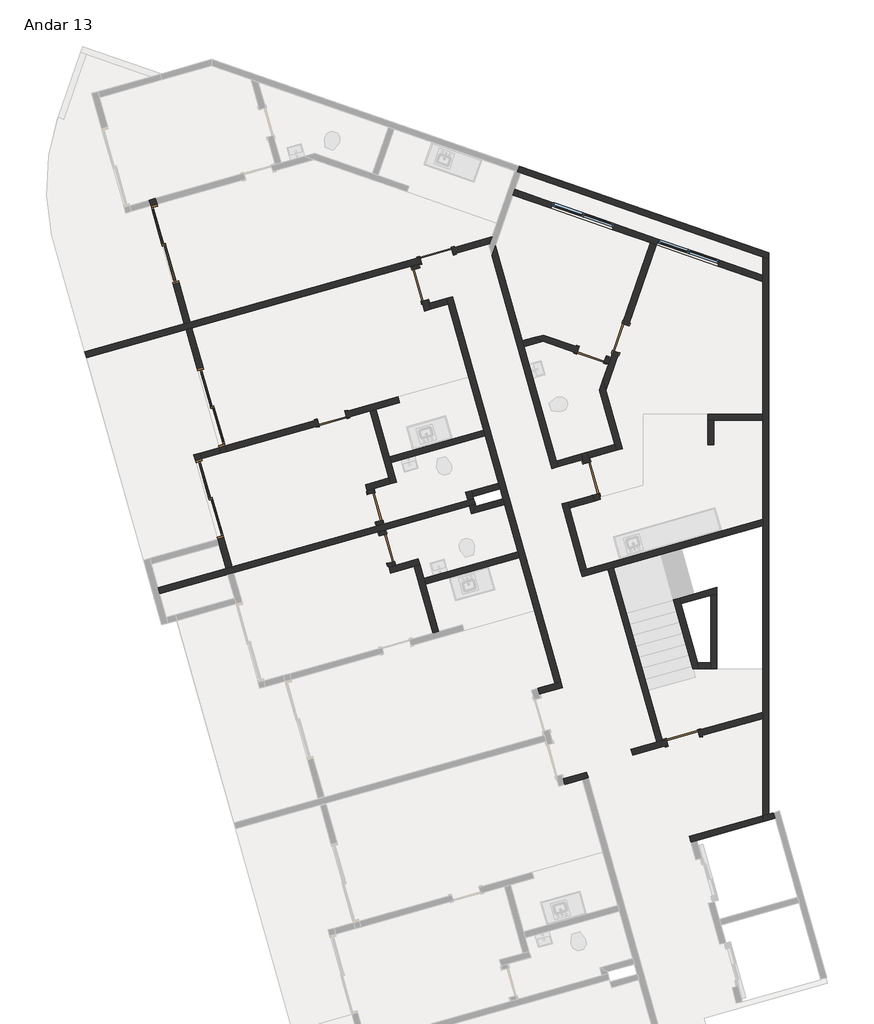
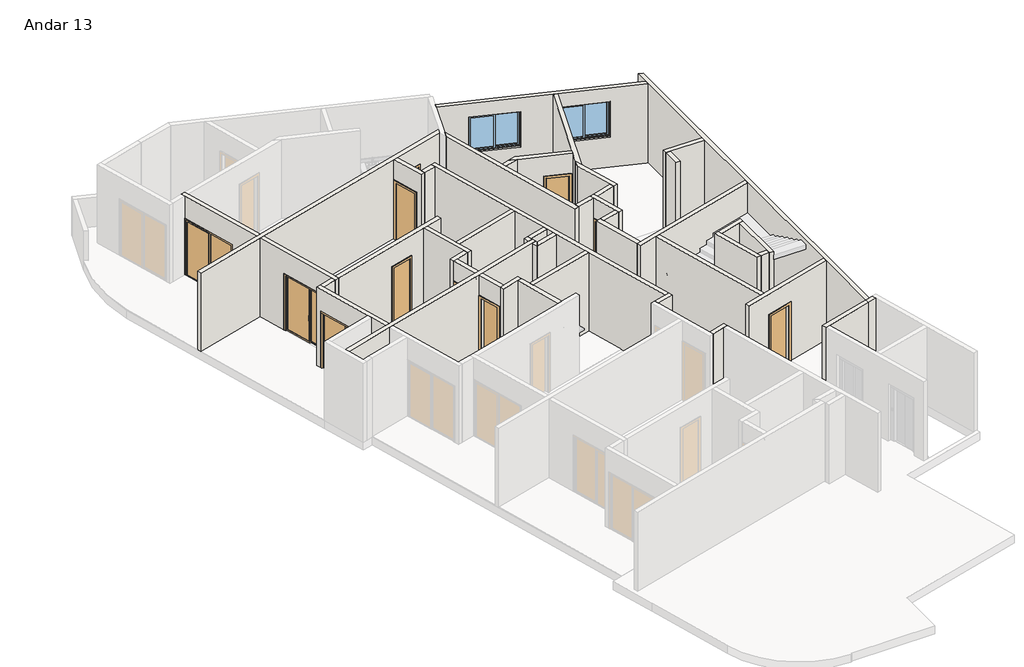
# One storey, part 2 of 3: 48 walls, 12 doors, 2 windows.
"""IFC4 building model written with IfcOpenShell, lengths in millimetres."""

from ifc_helpers import new_model, si_unit, frame, origin, place, context, project, spatial, polyline, outline, extrude, faceted_brep, transform, mapped, element, save
from components import p2_80cm_9d4be4ef, p2_80cm_083652d6, p3_70cm_ef4d15e3, p3_70cm_0a698c7c, p4_correr_200cm_eaaa0877, jx_160cm_e9e36a0c

model = new_model("IFC4")

# Units and contexts
model_context = context("Model", 3, world=origin())
ifc_project = project(units=[si_unit("LENGTHUNIT", "METRE", prefix="MILLI")], contexts=[model_context])

# Site, building, storey
site = spatial("IfcSite", under=ifc_project)
building = spatial("IfcBuilding", under=site)
storey = spatial("IfcBuildingStorey", under=building, Name="Andar 13", Elevation=88450.0)

# Doors
placement = place(None, origin())
p2_80cm_shape = p2_80cm_9d4be4ef(model_context)
element("IfcDoor", 1, ObjectType="M_Folha única1 : P2 - 80CM", at=placement, inside=storey, context=model_context, shape_type="MappedRepresentation", body=[
    mapped(p2_80cm_shape, transform((-83145.1128896, 30941.0402894, 88450.0), x_axis=(-0.9623628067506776, -0.2717679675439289, 0.0), y_axis=(0.2717679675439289, -0.9623628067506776, 0.0), z_axis=(0.0, 0.0, 1.0))),
])
element("IfcDoor", 2, ObjectType="M_Folha única1 : P2 - 80CM", at=placement, inside=storey, context=model_context, shape_type="MappedRepresentation", body=[
    mapped(p2_80cm_shape, transform((-79349.4097406, 25479.1041247, 88450.0), x_axis=(-0.27176796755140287, 0.962362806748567, 0.0), y_axis=(-0.962362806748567, -0.27176796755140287, 0.0), z_axis=(0.0, 0.0, 1.0))),
])
p2_80cm_2_shape = p2_80cm_083652d6(model_context)
element("IfcDoor", 3, ObjectType="M_Folha única1 : P2 - 80CM", at=placement, inside=storey, context=model_context, shape_type="MappedRepresentation", body=[
    mapped(p2_80cm_2_shape, transform((-83542.2049222, 30231.4150941, 88450.0), x_axis=(-0.2717679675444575, 0.9623628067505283, 0.0), y_axis=(-0.9623628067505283, -0.2717679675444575, 0.0), z_axis=(0.0, 0.0, 1.0))),
])
p3_70cm_shape = p3_70cm_ef4d15e3(model_context)
element("IfcDoor", 4, ObjectType="M_Folha única1 : P3 - 70CM", at=placement, inside=storey, context=model_context, shape_type="MappedRepresentation", body=[
    mapped(p3_70cm_shape, transform((-84650.97864, 24774.7108835, 88450.0), x_axis=(0.2717679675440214, -0.9623628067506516, 0.0), y_axis=(0.9623628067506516, 0.2717679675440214, 0.0), z_axis=(0.0, 0.0, 1.0))),
])
p3_70cm_2_shape = p3_70cm_0a698c7c(model_context)
element("IfcDoor", 5, ObjectType="M_Folha única1 : P3 - 70CM", at=placement, inside=storey, context=model_context, shape_type="MappedRepresentation", body=[
    mapped(p3_70cm_2_shape, transform((-84365.6222741, 23764.2299364, 88450.0), x_axis=(-0.2717679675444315, 0.9623628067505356, 0.0), y_axis=(-0.9623628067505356, -0.2717679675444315, 0.0), z_axis=(0.0, 0.0, 1.0))),
])
element("IfcDoor", 6, ObjectType="M_Folha única1 : P3 - 70CM", at=placement, inside=storey, context=model_context, shape_type="MappedRepresentation", body=[
    mapped(p3_70cm_2_shape, transform((-85705.4317558, 26944.8211633, 88450.0), x_axis=(0.9623628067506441, 0.2717679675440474, 0.0), y_axis=(-0.2717679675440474, 0.9623628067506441, 0.0), z_axis=(0.0, 0.0, 1.0))),
])
element("IfcDoor", 7, ObjectType="M_Folha única1 : P3 - 70CM", at=placement, inside=storey, context=model_context, shape_type="MappedRepresentation", body=[
    mapped(p3_70cm_2_shape, transform((-79346.1223746, 28509.6973665, 88450.0), x_axis=(0.9449109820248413, -0.32732741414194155, 0.0), y_axis=(0.32732741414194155, 0.9449109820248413, 0.0), z_axis=(0.0, 0.0, 1.0))),
])
element("IfcDoor", 8, ObjectType="M_Folha única1 : P3 - 70CM", at=placement, inside=storey, context=model_context, shape_type="MappedRepresentation", body=[
    mapped(p3_70cm_2_shape, transform((-78626.5662556, 28921.8732895, 88450.0), x_axis=(-0.32732741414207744, -0.9449109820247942, 0.0), y_axis=(0.9449109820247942, -0.32732741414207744, 0.0), z_axis=(0.0, 0.0, 1.0))),
])
p4_correr_200cm_shape = p4_correr_200cm_eaaa0877(model_context)
element("IfcDoor", 9, ObjectType="Porta de correr dupla envidraçada sem revestimento : P4 - CORRER - 200CM", at=placement, inside=storey, context=model_context, shape_type="MappedRepresentation", body=[
    mapped(p4_correr_200cm_shape, transform((-89799.7974026, 31217.9316171, 88450.0), x_axis=(0.27176796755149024, -0.9623628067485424, 0.0), y_axis=(0.9623628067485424, 0.27176796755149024, 0.0), z_axis=(0.0, 0.0, 1.0))),
])
element("IfcDoor", 10, ObjectType="Porta de correr dupla envidraçada sem revestimento : P4 - CORRER - 200CM", at=placement, inside=storey, context=model_context, shape_type="MappedRepresentation", body=[
    mapped(p4_correr_200cm_shape, transform((-88671.9603372, 27224.125969, 88450.0), x_axis=(-0.27176796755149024, 0.9623628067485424, 0.0), y_axis=(-0.9623628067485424, -0.27176796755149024, 0.0), z_axis=(0.0, 0.0, 1.0))),
])
element("IfcDoor", 11, ObjectType="Porta de correr dupla envidraçada sem revestimento : P4 - CORRER - 200CM", at=placement, inside=storey, context=model_context, shape_type="MappedRepresentation", body=[
    mapped(p4_correr_200cm_shape, transform((-88709.3738038, 24979.4758572, 88450.0), x_axis=(-0.2717679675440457, 0.9623628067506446, 0.0), y_axis=(-0.9623628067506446, -0.2717679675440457, 0.0), z_axis=(0.0, 0.0, 1.0))),
])
element("IfcDoor", 12, ObjectType="M_Folha única1 : PCF1 - 80CM", at=placement, inside=storey, context=model_context, shape_type="MappedRepresentation", body=[
    mapped(p2_80cm_shape, transform((-77103.5502958, 19127.1105693, 88450.0), x_axis=(-0.9623628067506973, -0.2717679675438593, 0.0), y_axis=(0.2717679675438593, -0.9623628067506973, 0.0), z_axis=(0.0, 0.0, 1.0))),
])

# Walls
element("IfcWall", 13, ObjectType="Básica .15 -  Interna", at=placement, inside=storey, context=model_context, shape_type="Brep", body=[
    faceted_brep([(-82901.0804648, 29892.9118737, 88450.0), (-82860.3152697, 29748.5574527, 88450.0), (-81990.6577736, 26668.9964711, 88450.0), (-81949.8925784, 26524.6420501, 88450.0), (-81623.7710174, 25369.806682, 88450.0), (-81583.0058223, 25225.452261, 88450.0), (-81515.0638304, 24984.8615593, 88450.0), (-81474.2986352, 24840.5071383, 88450.0), (-81148.1770742, 23685.6717702, 88450.0), (-81107.4118791, 23541.3173492, 88450.0), (-80237.7543829, 20461.7563676, 88450.0), (-80237.7543829, 20461.7563676, 91350.0), (-81107.4118791, 23541.3173492, 91350.0), (-81148.1770742, 23685.6717702, 91350.0), (-81474.2986352, 24840.5071383, 91350.0), (-81515.0638304, 24984.8615593, 91350.0), (-81583.0058223, 25225.452261, 91350.0), (-81623.7710174, 25369.806682, 91350.0), (-81949.8925784, 26524.6420501, 91350.0), (-81990.6577736, 26668.9964711, 91350.0), (-82860.3152697, 29748.5574527, 91350.0), (-82901.0804648, 29892.9118737, 91350.0), (-82756.7260438, 29933.6770689, 88450.0), (-82756.7260438, 29933.6770689, 91350.0), (-80093.3999619, 20502.5215627, 91350.0), (-80093.3999619, 20502.5215627, 88450.0)], [[[0, 1, 2, 3, 4, 5, 6, 7, 8, 9, 10, 11, 12, 13, 14, 15, 16, 17, 18, 19, 20, 21]], [[22, 23, 24, 25]], [[10, 9, 8, 7, 6, 5, 4, 3, 2, 1, 0, 22, 25]], [[21, 20, 19, 18, 17, 16, 15, 14, 13, 12, 11, 24, 23]], [[0, 21, 23, 22]], [[11, 10, 25, 24]]]),
])
element("IfcWall", 14, ObjectType="Básica .15 -  Interna", at=placement, inside=storey, context=model_context, shape_type="Brep", body=[
    faceted_brep([(-83750.2661164, 30692.2138999, 88450.0), (-83723.0893197, 30595.9776193, 88450.0), (-83723.0893197, 30595.9776193, 90550.0), (-83505.6749457, 29826.0873739, 90550.0), (-83505.6749457, 29826.0873739, 88450.0), (-83437.7329538, 29585.4966722, 88450.0), (-83437.7329538, 29585.4966722, 91350.0), (-83750.2661164, 30692.2138999, 91350.0), (-83578.7348987, 30636.7428144, 90550.0), (-83578.7348987, 30636.7428144, 88450.0), (-83605.9116954, 30732.9790951, 88450.0), (-83605.9116954, 30732.9790951, 91350.0), (-83334.1437279, 29770.6162883, 91350.0), (-83293.3785328, 29626.2618673, 91350.0), (-83293.3785328, 29626.2618673, 88450.0), (-83334.1437279, 29770.6162883, 88450.0), (-83361.3205246, 29866.852569, 88450.0), (-83361.3205246, 29866.852569, 90550.0)], [[[0, 1, 2, 3, 4, 5, 6, 7]], [[8, 9, 10, 11, 12, 13, 14, 15, 16, 17]], [[10, 9, 1, 0]], [[16, 15, 14, 5, 4]], [[7, 6, 13, 12, 11]], [[6, 5, 14, 13]], [[0, 7, 11, 10]], [[2, 1, 9, 8]], [[3, 2, 8, 17]], [[4, 3, 17, 16]]]),
])
element("IfcWall", 15, ObjectType="Básica .15 -  Interna", at=placement, inside=storey, context=model_context, shape_type="SweptSolid", body=[
    extrude(outline(polyline([(-82860.3152697, 29748.5574527), (-83293.3785328, 29626.2618673), (-83334.1437279, 29770.6162883), (-82901.0804648, 29892.9118737), (-82860.3152697, 29748.5574527)])), frame((0.0, 0.0, 88450.0), z_axis=(0.0, 0.0, 1.0), x_axis=(1.0, 0.0, 0.0)), (0.0, 0.0, 1.0), 2900.0),
])
element("IfcWall", 16, ObjectType="Básica .15 -  Interna", at=placement, inside=storey, context=model_context, shape_type="Brep", body=[
    faceted_brep([(-80093.3999619, 20502.5215627, 88450.0), (-80237.7543829, 20461.7563676, 88450.0), (-80670.817646, 20339.4607822, 88450.0), (-80670.817646, 20339.4607822, 91350.0), (-80237.7543829, 20461.7563676, 91350.0), (-80093.3999619, 20502.5215627, 91350.0), (-80052.6347668, 20358.1671417, 88450.0), (-80052.6347668, 20358.1671417, 91350.0), (-80630.0524508, 20195.1063612, 91350.0), (-80630.0524508, 20195.1063612, 88450.0)], [[[0, 1, 2, 3, 4, 5]], [[6, 7, 8, 9]], [[2, 1, 0, 6, 9]], [[5, 4, 3, 8, 7]], [[3, 2, 9, 8]], [[0, 5, 7, 6]]]),
])
element("IfcWall", 17, ObjectType="Básica .15 -  Interna", at=placement, inside=storey, context=model_context, shape_type="Brep", body=[
    faceted_brep([(-80004.9861255, 17981.6719056, 88450.0), (-79571.9228624, 18103.967491, 88450.0), (-79427.5684414, 18144.7326862, 88450.0), (-79427.5684414, 18144.7326862, 91350.0), (-79571.9228624, 18103.967491, 91350.0), (-80004.9861255, 17981.6719056, 91350.0), (-80045.7513206, 18126.0263266, 88450.0), (-80045.7513206, 18126.0263266, 91350.0), (-79468.3336366, 18289.0871072, 91350.0), (-79468.3336366, 18289.0871072, 88450.0)], [[[0, 1, 2, 3, 4, 5]], [[6, 7, 8, 9]], [[2, 1, 0, 6, 9]], [[5, 4, 3, 8, 7]], [[3, 2, 9, 8]], [[0, 5, 7, 6]]]),
])
element("IfcWall", 18, ObjectType="Básica .15 -  Interna", at=placement, inside=storey, context=model_context, shape_type="Brep", body=[
    faceted_brep([(-88305.9570711, 23274.9583478, 91350.0), (-88469.0178517, 23852.3760319, 91350.0), (-88509.7830468, 23996.7304529, 91350.0), (-89094.084177, 26065.8104874, 91350.0), (-89094.084177, 26065.8104874, 88450.0), (-89053.3189819, 25921.4560664, 88450.0), (-89053.3189819, 25921.4560664, 90550.0), (-88509.7830468, 23996.7304529, 90550.0), (-88509.7830468, 23996.7304529, 88450.0), (-88469.0178517, 23852.3760319, 88450.0), (-88305.9570711, 23274.9583478, 88450.0), (-88949.729756, 26106.5756825, 91350.0), (-88908.9645609, 25962.2212615, 91350.0), (-88161.6026501, 23315.723543, 91350.0), (-88161.6026501, 23315.723543, 88450.0), (-88365.4286258, 24037.495648, 88450.0), (-88365.4286258, 24037.495648, 90550.0), (-88908.9645609, 25962.2212615, 90550.0), (-88908.9645609, 25962.2212615, 88450.0), (-88949.729756, 26106.5756825, 88450.0)], [[[0, 1, 2, 3, 4, 5, 6, 7, 8, 9, 10]], [[11, 12, 13, 14, 15, 16, 17, 18, 19]], [[4, 19, 18, 5]], [[14, 10, 9, 8, 15]], [[3, 2, 1, 0, 13, 12, 11]], [[4, 3, 11, 19]], [[0, 10, 14, 13]], [[17, 6, 5, 18]], [[6, 17, 16, 7]], [[7, 16, 15, 8]]]),
])
element("IfcWall", 19, ObjectType="Básica .15 -  Interna", at=placement, inside=storey, context=model_context, shape_type="Brep", body=[
    faceted_brep([(-89143.3190618, 29169.2341801, 91350.0), (-88328.0151592, 26282.1457598, 91350.0), (-88287.249964, 26137.7913388, 91350.0), (-88287.249964, 26137.7913388, 88450.0), (-88328.0151592, 26282.1457598, 88450.0), (-88328.0151592, 26282.1457598, 90550.0), (-88871.5510943, 28206.8713733, 90550.0), (-88871.5510943, 28206.8713733, 88450.0), (-89143.3190618, 29169.2341801, 88450.0), (-88431.604385, 26097.0261437, 91350.0), (-88472.3695802, 26241.3805647, 91350.0), (-89287.6734828, 29128.468985, 91350.0), (-89287.6734828, 29128.468985, 88450.0), (-89015.9055153, 28166.1061782, 88450.0), (-89015.9055153, 28166.1061782, 90550.0), (-88472.3695802, 26241.3805647, 90550.0), (-88472.3695802, 26241.3805647, 88450.0), (-88431.604385, 26097.0261437, 88450.0)], [[[0, 1, 2, 3, 4, 5, 6, 7, 8]], [[9, 10, 11, 12, 13, 14, 15, 16, 17]], [[3, 17, 16, 4]], [[12, 8, 7, 13]], [[2, 1, 0, 11, 10, 9]], [[3, 2, 9, 17]], [[0, 8, 12, 11]], [[6, 14, 13, 7]], [[14, 6, 5, 15]], [[15, 5, 4, 16]]]),
])
element("IfcWall", 20, ObjectType="Básica .15 -  Interna", at=placement, inside=storey, context=model_context, shape_type="Brep", body=[
    faceted_brep([(-76904.7538909, 16570.3643175, 88450.0), (-76760.3994699, 16611.1295126, 88450.0), (-75147.8282189, 17066.5141226, 88450.0), (-75147.8282189, 17066.5141226, 91350.0), (-76760.3994699, 16611.1295126, 91350.0), (-76904.7538909, 16570.3643175, 91350.0), (-76945.5190861, 16714.7187385, 88450.0), (-76945.5190861, 16714.7187385, 91350.0), (-75147.8282189, 17222.3804954, 91350.0), (-75147.8282189, 17222.3804954, 88450.0)], [[[0, 1, 2, 3, 4, 5]], [[6, 7, 8, 9]], [[2, 1, 0, 6, 9]], [[5, 4, 3, 8, 7]], [[0, 5, 7, 6]], [[3, 2, 9, 8]]]),
])
element("IfcWall", 21, ObjectType="Básica .15 -  Interna", at=placement, inside=storey, context=model_context, shape_type="Brep", body=[
    faceted_brep([(-79570.9048554, 23078.5590693, 88450.0), (-78948.2127609, 23254.4051886, 88450.0), (-78803.8582924, 23295.1703972, 88450.0), (-75147.8282189, 24327.6207947, 88450.0), (-75147.8282189, 24327.6207947, 91350.0), (-78803.8582924, 23295.1703972, 91350.0), (-78948.2127609, 23254.4051886, 91350.0), (-79570.9048554, 23078.5590693, 91350.0), (-79611.6700506, 23222.9134903, 88450.0), (-79611.6700506, 23222.9134903, 91350.0), (-79467.3156296, 23263.6786855, 91350.0), (-75147.8282189, 24483.4871675, 91350.0), (-75147.8282189, 24483.4871675, 88450.0), (-79467.3156296, 23263.6786855, 88450.0)], [[[0, 1, 2, 3, 4, 5, 6, 7]], [[8, 9, 10, 11, 12, 13]], [[3, 2, 1, 0, 8, 13, 12]], [[7, 6, 5, 4, 11, 10, 9]], [[0, 7, 9, 8]], [[4, 3, 12, 11]]]),
])
element("IfcWall", 22, ObjectType="Básica .15 -  Interna", at=placement, inside=storey, context=model_context, shape_type="SweptSolid", body=[
    extrude(outline(polyline([(-77749.4687652, 19022.6385875), (-78948.2127609, 23254.4051886), (-78803.8582924, 23295.1703972), (-77605.1142967, 19063.4037961), (-77749.4687652, 19022.6385875)])), frame((0.0, 0.0, 88450.0), z_axis=(0.0, 0.0, 1.0), x_axis=(1.0, 0.0, 0.0)), (0.0, 0.0, 1.0), 2900.0),
])
element("IfcWall", 23, ObjectType="Básica .15 -  Interna", at=placement, inside=storey, context=model_context, shape_type="Brep", body=[
    faceted_brep([(-77508.878016, 19090.5805928, 90550.0), (-77508.878016, 19090.5805928, 88450.0), (-77605.1142967, 19063.4037961, 88450.0), (-77749.4687652, 19022.6385875, 88450.0), (-78375.5945972, 18845.8227925, 88450.0), (-78375.5945972, 18845.8227925, 91350.0), (-77749.4687652, 19022.6385875, 91350.0), (-77605.1142967, 19063.4037961, 91350.0), (-75147.8282189, 19757.3329862, 91350.0), (-75147.8282189, 19757.3329862, 88450.0), (-76738.9877706, 19307.9949669, 88450.0), (-76738.9877706, 19307.9949669, 90550.0), (-78334.829402, 18701.4683715, 88450.0), (-77468.1128209, 18946.2261718, 88450.0), (-77468.1128209, 18946.2261718, 90550.0), (-76698.2225755, 19163.6405459, 90550.0), (-76698.2225755, 19163.6405459, 88450.0), (-75147.8282189, 19601.4666134, 88450.0), (-75147.8282189, 19601.4666134, 91350.0), (-78334.829402, 18701.4683715, 91350.0)], [[[0, 1, 2, 3, 4, 5, 6, 7, 8, 9, 10, 11]], [[12, 13, 14, 15, 16, 17, 18, 19]], [[10, 9, 17, 16]], [[4, 3, 2, 1, 13, 12]], [[5, 4, 12, 19]], [[8, 7, 6, 5, 19, 18]], [[14, 13, 1, 0]], [[15, 14, 0, 11]], [[16, 15, 11, 10]], [[9, 8, 18, 17]]]),
])
element("IfcWall", 24, ObjectType="Básica .15 - Externa", at=placement, inside=storey, context=model_context, shape_type="Brep", body=[
    faceted_brep([(-75147.8282189, 30909.9128092, 91350.0), (-75147.8282189, 30909.9128092, 88450.0), (-75147.8282189, 30461.6117638, 88450.0), (-75147.8282189, 30302.8666514, 88450.0), (-75147.8282189, 27060.8243598, 88450.0), (-75147.8282189, 26910.8243598, 88450.0), (-75147.8282189, 24483.4871675, 88450.0), (-75147.8282189, 24327.6207947, 88450.0), (-75147.8282189, 19757.3329862, 88450.0), (-75147.8282189, 19601.4666134, 88450.0), (-75147.8282189, 17222.3804954, 88450.0), (-75147.8282189, 17222.3804954, 91350.0), (-75147.8282189, 19601.4666134, 91350.0), (-75147.8282189, 19757.3329862, 91350.0), (-75147.8282189, 24327.6207947, 91350.0), (-75147.8282189, 24483.4871675, 91350.0), (-75147.8282189, 26910.8243598, 91350.0), (-75147.8282189, 27060.8243598, 91350.0), (-75147.8282189, 30302.8666514, 91350.0), (-75147.8282189, 30461.6117638, 91350.0), (-74997.8282189, 30857.9511821, 88450.0), (-74997.8282189, 30857.9511821, 89750.0), (-74997.8282189, 30857.9511821, 91050.0), (-74997.8282189, 30857.9511821, 91350.0), (-74997.8282189, 17264.7399828, 91350.0), (-74997.8282189, 17264.7399828, 88450.0)], [[[0, 1, 2, 3, 4, 5, 6, 7, 8, 9, 10, 11, 12, 13, 14, 15, 16, 17, 18, 19]], [[20, 21, 22, 23, 24, 25]], [[10, 9, 8, 7, 6, 5, 4, 3, 2, 1, 20, 25]], [[0, 19, 18, 17, 16, 15, 14, 13, 12, 11, 24, 23]], [[11, 10, 25, 24]], [[0, 23, 22, 21, 20, 1]]]),
])
element("IfcWall", 25, ObjectType="Básica .15 -  Interna", at=placement, inside=storey, context=model_context, shape_type="Brep", body=[
    faceted_brep([(-80073.6755954, 24858.9302618, 88450.0), (-79611.6700506, 23222.9134903, 88450.0), (-79611.6700506, 23222.9134903, 91350.0), (-80073.6755954, 24858.9302618, 91350.0), (-79929.3211744, 24899.695457, 88450.0), (-79929.3211744, 24899.695457, 91350.0), (-79888.5559793, 24755.3410359, 91350.0), (-79467.3156296, 23263.6786855, 91350.0), (-79467.3156296, 23263.6786855, 88450.0), (-79888.5559793, 24755.3410359, 88450.0)], [[[0, 1, 2, 3]], [[4, 5, 6, 7, 8, 9]], [[1, 0, 4, 9, 8]], [[3, 2, 7, 6, 5]], [[0, 3, 5, 4]], [[2, 1, 8, 7]]]),
])
element("IfcWall", 26, ObjectType="Básica .15 -  Interna", at=placement, inside=storey, context=model_context, shape_type="Brep", body=[
    faceted_brep([(-79888.5559793, 24755.3410359, 88450.0), (-79272.1145689, 24929.4219834, 88450.0), (-79272.1145689, 24929.4219834, 91350.0), (-79888.5559793, 24755.3410359, 91350.0), (-79929.3211744, 24899.695457, 88450.0), (-79929.3211744, 24899.695457, 91350.0), (-79312.8797641, 25073.7764044, 91350.0), (-79312.8797641, 25073.7764044, 90550.0), (-79312.8797641, 25073.7764044, 88450.0)], [[[0, 1, 2, 3]], [[4, 5, 6, 7, 8]], [[1, 0, 4, 8]], [[3, 2, 6, 5]], [[0, 3, 5, 4]], [[2, 1, 8, 7, 6]]]),
])
element("IfcWall", 27, ObjectType="Básica .15 -  Interna", at=placement, inside=storey, context=model_context, shape_type="Brep", body=[
    faceted_brep([(-79598.23613, 26084.2573515, 88450.0), (-79557.4709349, 25939.9029305, 88450.0), (-79530.2941381, 25843.6666498, 88450.0), (-79530.2941381, 25843.6666498, 90550.0), (-79312.8797641, 25073.7764044, 90550.0), (-79312.8797641, 25073.7764044, 88450.0), (-79272.1145689, 24929.4219834, 88450.0), (-79272.1145689, 24929.4219834, 91350.0), (-79312.8797641, 25073.7764044, 91350.0), (-79557.4709349, 25939.9029305, 91350.0), (-79598.23613, 26084.2573515, 91350.0), (-79385.9397171, 25884.4318449, 90550.0), (-79385.9397171, 25884.4318449, 88450.0), (-79413.1165138, 25980.6681256, 88450.0), (-79453.881709, 26125.0225466, 88450.0), (-79453.881709, 26125.0225466, 91350.0), (-79413.1165138, 25980.6681256, 91350.0), (-79127.7601479, 24970.1871785, 91350.0), (-79127.7601479, 24970.1871785, 88450.0), (-79168.5253431, 25114.5415995, 88450.0), (-79168.5253431, 25114.5415995, 90550.0)], [[[0, 1, 2, 3, 4, 5, 6, 7, 8, 9, 10]], [[11, 12, 13, 14, 15, 16, 17, 18, 19, 20]], [[19, 18, 6, 5]], [[14, 13, 12, 2, 1, 0]], [[10, 9, 8, 7, 17, 16, 15]], [[7, 6, 18, 17]], [[0, 10, 15, 14]], [[3, 2, 12, 11]], [[4, 3, 11, 20]], [[5, 4, 20, 19]]]),
])
element("IfcWall", 28, ObjectType="Básica .15 -  Interna", at=placement, inside=storey, context=model_context, shape_type="Brep", body=[
    faceted_brep([(-81789.2550074, 30934.0017027, 88450.0), (-80318.2667662, 25725.0567879, 88450.0), (-80318.2667662, 25725.0567879, 91350.0), (-81789.2550074, 30934.0017027, 91350.0), (-81703.3880158, 31181.8778654, 88450.0), (-81703.3880158, 31181.8778654, 91350.0), (-81045.1503443, 28850.9797144, 91350.0), (-81004.3851492, 28706.6252933, 91350.0), (-80214.6775403, 25910.176404, 91350.0), (-80173.9123452, 25765.821983, 91350.0), (-80173.9123452, 25765.821983, 88450.0), (-80214.6775403, 25910.176404, 88450.0), (-81004.3851492, 28706.6252933, 88450.0), (-81045.1503443, 28850.9797144, 88450.0)], [[[0, 1, 2, 3]], [[4, 5, 6, 7, 8, 9, 10, 11, 12, 13]], [[1, 0, 4, 13, 12, 11, 10]], [[3, 2, 9, 8, 7, 6, 5]], [[0, 3, 5, 4]], [[2, 1, 10, 9]]]),
])
element("IfcWall", 29, ObjectType="Básica .15 -  Interna", at=placement, inside=storey, context=model_context, shape_type="Brep", body=[
    faceted_brep([(-88908.9645609, 25962.2212615, 88450.0), (-88431.604385, 26097.0261437, 88450.0), (-88431.604385, 26097.0261437, 91350.0), (-88908.9645609, 25962.2212615, 91350.0), (-88908.9645609, 25962.2212615, 90550.0), (-88949.729756, 26106.5756825, 88450.0), (-88949.729756, 26106.5756825, 91350.0), (-88472.3695802, 26241.3805647, 91350.0), (-88472.3695802, 26241.3805647, 88450.0)], [[[0, 1, 2, 3, 4]], [[5, 6, 7, 8]], [[1, 0, 5, 8]], [[3, 2, 7, 6]], [[0, 4, 3, 6, 5]], [[2, 1, 8, 7]]]),
])
element("IfcWall", 30, ObjectType="Básica .15 -  Interna", at=placement, inside=storey, context=model_context, shape_type="SweptSolid", body=[
    extrude(outline(polyline([(-79557.4709349, 25939.9029305), (-80173.9123452, 25765.821983), (-80214.6775403, 25910.176404), (-79598.23613, 26084.2573515), (-79557.4709349, 25939.9029305)])), frame((0.0, 0.0, 88450.0), z_axis=(0.0, 0.0, 1.0), x_axis=(1.0, 0.0, 0.0)), (0.0, 0.0, 1.0), 2900.0),
])
element("IfcWall", 31, ObjectType="Básica .15 -  Interna", at=placement, inside=storey, context=model_context, shape_type="Brep", body=[
    faceted_brep([(-91725.2428613, 28440.1077234, 88450.0), (-89287.6734828, 29128.468985, 88450.0), (-89143.3190618, 29169.2341801, 88450.0), (-83750.2661164, 30692.2138999, 88450.0), (-83605.9116954, 30732.9790951, 88450.0), (-83509.6754148, 30760.1558918, 88450.0), (-83509.6754148, 30760.1558918, 90550.0), (-82739.7851694, 30977.5702659, 90550.0), (-82739.7851694, 30977.5702659, 88450.0), (-81845.4155775, 31230.1371819, 88450.0), (-81845.4155775, 31230.1371819, 91350.0), (-83605.9116954, 30732.9790951, 91350.0), (-83750.2661164, 30692.2138999, 91350.0), (-89143.3190618, 29169.2341801, 91350.0), (-89287.6734828, 29128.468985, 91350.0), (-91725.2428613, 28440.1077234, 91350.0), (-83550.4406099, 30904.5103128, 90550.0), (-83550.4406099, 30904.5103128, 88450.0), (-89184.084257, 29313.5886011, 88450.0), (-89328.438678, 29272.823406, 88450.0), (-91766.0080564, 28584.4621444, 88450.0), (-91766.0080564, 28584.4621444, 91350.0), (-89328.438678, 29272.823406, 91350.0), (-89184.084257, 29313.5886011, 91350.0), (-81785.5670817, 31402.9045654, 91350.0), (-81785.5670817, 31402.9045654, 88450.0), (-82780.5503645, 31121.9246869, 88450.0), (-82780.5503645, 31121.9246869, 90550.0)], [[[0, 1, 2, 3, 4, 5, 6, 7, 8, 9, 10, 11, 12, 13, 14, 15]], [[16, 17, 18, 19, 20, 21, 22, 23, 24, 25, 26, 27]], [[26, 25, 9, 8]], [[20, 19, 18, 17, 5, 4, 3, 2, 1, 0]], [[15, 14, 13, 12, 11, 10, 24, 23, 22, 21]], [[0, 15, 21, 20]], [[10, 9, 25, 24]], [[6, 5, 17, 16]], [[7, 6, 16, 27]], [[8, 7, 27, 26]]]),
])
element("IfcWall", 32, ObjectType="Básica .15 -  Interna", at=placement, inside=storey, context=model_context, shape_type="Brep", body=[
    faceted_brep([(-90040.1533547, 32345.0314424, 91350.0), (-89999.3881596, 32200.6770214, 91350.0), (-89184.084257, 29313.5886011, 91350.0), (-89184.084257, 29313.5886011, 88450.0), (-89455.8522245, 30275.9514079, 88450.0), (-89455.8522245, 30275.9514079, 90550.0), (-89999.3881596, 32200.6770214, 90550.0), (-89999.3881596, 32200.6770214, 88450.0), (-90040.1533547, 32345.0314424, 88450.0), (-89328.438678, 29272.823406, 91350.0), (-90143.7425806, 32159.9118263, 91350.0), (-90184.5077758, 32304.2662473, 91350.0), (-90184.5077758, 32304.2662473, 88450.0), (-90143.7425806, 32159.9118262, 88450.0), (-90143.7425806, 32159.9118262, 90550.0), (-89600.2066455, 30235.1862128, 90550.0), (-89600.2066455, 30235.1862128, 88450.0), (-89328.438678, 29272.823406, 88450.0)], [[[0, 1, 2, 3, 4, 5, 6, 7, 8]], [[9, 10, 11, 12, 13, 14, 15, 16, 17]], [[12, 8, 7, 13]], [[3, 17, 16, 4]], [[2, 1, 0, 11, 10, 9]], [[0, 8, 12, 11]], [[3, 2, 9, 17]], [[15, 5, 4, 16]], [[5, 15, 14, 6]], [[6, 14, 13, 7]]]),
])
element("IfcWall", 33, ObjectType="Básica .15 -  Interna", at=placement, inside=storey, context=model_context, shape_type="Brep", body=[
    faceted_brep([(-89936.6922366, 22658.5779377, 88450.0), (-88265.191876, 23130.6039268, 88450.0), (-88120.837455, 23171.369122, 88450.0), (-84560.09507, 24176.9106019, 88450.0), (-84415.740649, 24217.675797, 88450.0), (-82192.6825654, 24845.459802, 88450.0), (-82192.6825654, 24845.459802, 91350.0), (-84415.740649, 24217.675797, 91350.0), (-84560.09507, 24176.9106019, 91350.0), (-88120.837455, 23171.369122, 91350.0), (-88265.191876, 23130.6039268, 91350.0), (-89936.6922366, 22658.5779377, 91350.0), (-89977.4574318, 22802.9323587, 88450.0), (-89977.4574318, 22802.9323587, 91350.0), (-88305.9570711, 23274.9583478, 91350.0), (-88161.6026501, 23315.723543, 91350.0), (-84600.8602651, 24321.2650229, 91350.0), (-84456.5058441, 24362.030218, 91350.0), (-82233.4477605, 24989.814223, 91350.0), (-82233.4477605, 24989.814223, 88450.0), (-84456.5058441, 24362.030218, 88450.0), (-84600.8602651, 24321.2650229, 88450.0), (-88161.6026501, 23315.723543, 88450.0), (-88305.9570711, 23274.9583478, 88450.0)], [[[0, 1, 2, 3, 4, 5, 6, 7, 8, 9, 10, 11]], [[12, 13, 14, 15, 16, 17, 18, 19, 20, 21, 22, 23]], [[5, 4, 3, 2, 1, 0, 12, 23, 22, 21, 20, 19]], [[6, 5, 19, 18]], [[11, 10, 9, 8, 7, 6, 18, 17, 16, 15, 14, 13]], [[0, 11, 13, 12]]]),
])
element("IfcWall", 34, ObjectType="Básica .15 -  Interna", at=placement, inside=storey, context=model_context, shape_type="Brep", body=[
    faceted_brep([(-81272.8781344, 32424.6503839, 88450.0), (-77897.5766162, 31255.4093243, 88450.0), (-77755.8399689, 31206.3102121, 88450.0), (-75147.8282189, 30302.8666514, 88450.0), (-75147.8282189, 30302.8666514, 91350.0), (-77755.8399689, 31206.3102121, 91350.0), (-77897.5766162, 31255.4093243, 91350.0), (-81272.8781344, 32424.6503839, 91350.0), (-78829.2985897, 31578.1679228, 89550.0), (-80341.1561609, 32101.8917854, 89550.0), (-80341.1561609, 32101.8917854, 90850.0), (-78829.2985897, 31578.1679228, 90850.0), (-76243.9823976, 30682.5863495, 89550.0), (-77755.8399689, 31206.3102121, 89550.0), (-77755.8399689, 31206.3102121, 90850.0), (-76243.9823976, 30682.5863495, 90850.0), (-81223.7790223, 32566.3870312, 88450.0), (-81223.7790223, 32566.3870312, 91350.0), (-75147.8282189, 30461.6117638, 91350.0), (-75147.8282189, 30461.6117638, 88450.0), (-78780.1994776, 31719.9045701, 89550.0), (-78780.1994776, 31719.9045701, 90850.0), (-80292.0570488, 32243.6284327, 90850.0), (-80292.0570488, 32243.6284327, 89550.0), (-76194.8832855, 30824.3229968, 89550.0), (-76194.8832855, 30824.3229968, 90850.0), (-77706.7408568, 31348.0468595, 90850.0), (-77706.7408568, 31348.0468595, 89550.0)], [[[0, 1, 2, 3, 4, 5, 6, 7], [8, 9, 10, 11], [12, 13, 14, 15]], [[16, 17, 18, 19], [20, 21, 22, 23], [24, 25, 26, 27]], [[3, 2, 1, 0, 16, 19]], [[7, 6, 5, 4, 18, 17]], [[0, 7, 17, 16]], [[21, 20, 8, 11]], [[22, 21, 11, 10]], [[23, 22, 10, 9]], [[20, 23, 9, 8]], [[25, 24, 12, 15]], [[26, 25, 15, 14]], [[27, 26, 14, 13]], [[24, 27, 13, 12]], [[4, 3, 19, 18]]]),
])
element("IfcWall", 35, ObjectType="Básica .15 - Externa", at=placement, inside=storey, context=model_context, shape_type="Brep", body=[
    faceted_brep([(-81156.3583355, 32991.3328194, 89750.0), (-81156.3583355, 32991.3328194, 88450.0), (-81156.3583355, 32991.3328194, 88150.0), (-81085.1216301, 32966.655652, 88150.0), (-74997.8282189, 30857.9511821, 88150.0), (-74997.8282189, 30857.9511821, 88450.0), (-74997.8282189, 30857.9511821, 89750.0), (-81085.1216301, 32966.655652, 89750.0), (-81107.2592234, 33133.0694667, 88150.0), (-81107.2592234, 33133.0694667, 88450.0), (-81107.2592234, 33133.0694667, 89750.0), (-81036.022518, 33108.3922993, 89750.0), (-74997.8282189, 31016.6962944, 89750.0), (-74997.8282189, 31016.6962944, 88150.0), (-81036.022518, 33108.3922993, 88150.0)], [[[0, 1, 2, 3, 4, 5, 6, 7]], [[8, 9, 10, 11, 12, 13, 14]], [[4, 3, 2, 8, 14, 13]], [[0, 7, 6, 12, 11, 10]], [[0, 10, 9, 8, 2, 1]], [[4, 13, 12, 6, 5]]]),
])
element("IfcWall", 36, ObjectType="Básica .15 -  Interna", at=placement, inside=storey, context=model_context, shape_type="SweptSolid", body=[
    extrude(outline(polyline([(-82179.094167, 24797.3416617), (-81515.0638304, 24984.8615593), (-81474.2986352, 24840.5071383), (-82282.6833929, 24612.2220455), (-82179.094167, 24797.3416617)])), frame((0.0, 0.0, 88450.0), z_axis=(0.0, 0.0, 1.0), x_axis=(1.0, 0.0, 0.0)), (0.0, 0.0, 1.0), 2900.0),
])
element("IfcWall", 37, ObjectType="Básica .15 -  Interna", at=placement, inside=storey, context=model_context, shape_type="SweptSolid", body=[
    extrude(outline(polyline([(-82192.6825654, 24845.459802), (-82179.094167, 24797.3416617), (-82282.6833929, 24612.2220455), (-82337.0369864, 24804.6946069), (-82192.6825654, 24845.459802)])), frame((0.0, 0.0, 88450.0), z_axis=(0.0, 0.0, 1.0), x_axis=(1.0, 0.0, 0.0)), (0.0, 0.0, 1.0), 2900.0),
])
element("IfcWall", 38, ObjectType="Básica .15 -  Interna", at=placement, inside=storey, context=model_context, shape_type="Brep", body=[
    faceted_brep([(-83593.7317942, 23514.6100515, 88450.0), (-84171.1494782, 23351.5492709, 88450.0), (-84315.5038992, 23310.7840758, 88450.0), (-84315.5038992, 23310.7840758, 91350.0), (-84171.1494782, 23351.5492709, 91350.0), (-83593.7317942, 23514.6100515, 91350.0), (-83552.966599, 23370.2556304, 88450.0), (-83552.966599, 23370.2556304, 91350.0), (-83697.32102, 23329.4904353, 91350.0), (-84274.7387041, 23166.4296548, 91350.0), (-84274.7387041, 23166.4296548, 88450.0), (-83697.32102, 23329.4904353, 88450.0)], [[[0, 1, 2, 3, 4, 5]], [[6, 7, 8, 9, 10, 11]], [[2, 1, 0, 6, 11, 10]], [[5, 4, 3, 9, 8, 7]], [[0, 5, 7, 6]], [[3, 2, 10, 9]]]),
])
element("IfcWall", 39, ObjectType="Básica .15 -  Interna", at=placement, inside=storey, context=model_context, shape_type="Brep", body=[
    faceted_brep([(-83090.9610542, 21734.238859, 88450.0), (-83417.0826153, 22889.0742271, 88450.0), (-83457.8478104, 23033.4286481, 88450.0), (-83552.966599, 23370.2556304, 88450.0), (-83552.966599, 23370.2556304, 91350.0), (-83457.8478104, 23033.4286481, 91350.0), (-83417.0826153, 22889.0742271, 91350.0), (-83090.9610542, 21734.238859, 91350.0), (-83235.3154752, 21693.4736638, 88450.0), (-83235.3154752, 21693.4736638, 91350.0), (-83697.32102, 23329.4904353, 91350.0), (-83697.32102, 23329.4904353, 88450.0)], [[[0, 1, 2, 3, 4, 5, 6, 7]], [[8, 9, 10, 11]], [[3, 2, 1, 0, 8, 11]], [[7, 6, 5, 4, 10, 9]], [[0, 7, 9, 8]], [[4, 3, 11, 10]]]),
])
element("IfcWall", 40, ObjectType="Básica .15 -  Interna", at=placement, inside=storey, context=model_context, shape_type="SweptSolid", body=[
    extrude(outline(polyline([(-83457.8478104, 23033.4286481), (-81148.1770742, 23685.6717702), (-81107.4118791, 23541.3173492), (-83417.0826153, 22889.0742271), (-83457.8478104, 23033.4286481)])), frame((0.0, 0.0, 88450.0), z_axis=(0.0, 0.0, 1.0), x_axis=(1.0, 0.0, 0.0)), (0.0, 0.0, 1.0), 2900.0),
])
element("IfcWall", 41, ObjectType="Básica .15 -  Interna", at=placement, inside=storey, context=model_context, shape_type="SweptSolid", body=[
    extrude(outline(polyline([(150.0, 0.0), (250.0, 0.0), (250.0, -2100.0), (950.0, -2100.0), (950.0, 0.0), (1050.0, 0.0), (1050.0, -2900.0), (150.0, -2900.0), (150.0, 0.0)])), frame((-84600.8602651, 24321.2650229, 88450.0), z_axis=(0.9623628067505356, 0.2717679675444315, 0.0), x_axis=(0.2717679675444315, -0.9623628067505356, 0.0)), (0.0, 0.0, 1.0), 150.0),
])
element("IfcWall", 42, ObjectType="Básica .15 -  Interna", at=placement, inside=storey, context=model_context, shape_type="Brep", body=[
    faceted_brep([(-84770.8044918, 27130.823522, 88450.0), (-84308.798947, 25494.8067505, 88450.0), (-84268.0337519, 25350.4523295, 88450.0), (-84268.0337519, 25350.4523295, 91350.0), (-84308.798947, 25494.8067505, 91350.0), (-84770.8044918, 27130.823522, 91350.0), (-84626.4500708, 27171.5887171, 88450.0), (-84626.4500708, 27171.5887171, 91350.0), (-84300.3285098, 26016.753349, 91350.0), (-84259.5633146, 25872.398928, 91350.0), (-84123.6793309, 25391.2175246, 91350.0), (-84123.6793309, 25391.2175246, 88450.0), (-84259.5633146, 25872.398928, 88450.0), (-84300.3285098, 26016.753349, 88450.0)], [[[0, 1, 2, 3, 4, 5]], [[6, 7, 8, 9, 10, 11, 12, 13]], [[2, 1, 0, 6, 13, 12, 11]], [[5, 4, 3, 10, 9, 8, 7]], [[3, 2, 11, 10]], [[0, 5, 7, 6]]]),
])
element("IfcWall", 43, ObjectType="Básica .15 -  Interna", at=placement, inside=storey, context=model_context, shape_type="SweptSolid", body=[
    extrude(outline(polyline([(-84300.3285098, 26016.753349), (-81990.6577736, 26668.9964711), (-81949.8925784, 26524.6420501), (-84259.5633146, 25872.398928), (-84300.3285098, 26016.753349)])), frame((0.0, 0.0, 88450.0), z_axis=(0.0, 0.0, 1.0), x_axis=(1.0, 0.0, 0.0)), (0.0, 0.0, 1.0), 2900.0),
])
element("IfcWall", 44, ObjectType="Básica .15 -  Interna", at=placement, inside=storey, context=model_context, shape_type="Brep", body=[
    faceted_brep([(-84308.798947, 25494.8067505, 88450.0), (-84886.2166311, 25331.74597, 88450.0), (-84886.2166311, 25331.74597, 91350.0), (-84308.798947, 25494.8067505, 91350.0), (-84268.0337519, 25350.4523295, 88450.0), (-84268.0337519, 25350.4523295, 91350.0), (-84701.0970149, 25228.1567441, 91350.0), (-84845.4514359, 25187.391549, 91350.0), (-84845.4514359, 25187.391549, 88450.0), (-84701.0970149, 25228.1567441, 88450.0)], [[[0, 1, 2, 3]], [[4, 5, 6, 7, 8, 9]], [[1, 0, 4, 9, 8]], [[3, 2, 7, 6, 5]], [[2, 1, 8, 7]], [[0, 3, 5, 4]]]),
])
element("IfcWall", 45, ObjectType="Básica .15 -  Interna", at=placement, inside=storey, context=model_context, shape_type="SweptSolid", body=[
    extrude(outline(polyline([(800.0, -2100.0), (800.0, 0.0), (900.0, 0.0), (900.0, -2900.0), (0.0, -2900.0), (0.0, 0.0), (100.0, 0.0), (100.0, -2100.0), (800.0, -2100.0)])), frame((-84845.4514359, 25187.391549, 88450.0), z_axis=(0.9623628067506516, 0.2717679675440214, 0.0), x_axis=(0.2717679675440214, -0.9623628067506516, 0.0)), (0.0, 0.0, 1.0), 150.0),
])
element("IfcWall", 46, ObjectType="Básica .15 -  Interna", at=placement, inside=storey, context=model_context, shape_type="Brep", body=[
    faceted_brep([(-82432.1557751, 25141.5215893, 88450.0), (-82377.8021816, 24949.0490279, 88450.0), (-82377.8021816, 24949.0490279, 91350.0), (-82432.1557751, 25141.5215893, 91350.0), (-82287.801354, 25182.2867844, 88450.0), (-82287.801354, 25182.2867844, 91350.0), (-82247.0361589, 25037.9323634, 91350.0), (-82233.4477605, 24989.814223, 91350.0), (-82233.4477605, 24989.814223, 88450.0), (-82247.0361589, 25037.9323634, 88450.0)], [[[0, 1, 2, 3]], [[4, 5, 6, 7, 8, 9]], [[1, 0, 4, 9, 8]], [[2, 1, 8, 7]], [[3, 2, 7, 6, 5]], [[0, 3, 5, 4]]]),
])
element("IfcWall", 47, ObjectType="Básica .15 -  Interna", at=placement, inside=storey, context=model_context, shape_type="SweptSolid", body=[
    extrude(outline(polyline([(-81583.0058223, 25225.452261), (-82247.0361589, 25037.9323634), (-82287.801354, 25182.2867844), (-81623.7710174, 25369.806682), (-81583.0058223, 25225.452261)])), frame((0.0, 0.0, 88450.0), z_axis=(0.0, 0.0, 1.0), x_axis=(1.0, 0.0, 0.0)), (0.0, 0.0, 1.0), 2900.0),
])
element("IfcWall", 48, ObjectType="Básica .15 -  Interna", at=placement, inside=storey, context=model_context, shape_type="Brep", body=[
    faceted_brep([(-76493.6479314, 26910.8243598, 88450.0), (-76343.6479314, 26910.8243598, 88450.0), (-75147.8282189, 26910.8243598, 88450.0), (-75147.8282189, 26910.8243598, 91350.0), (-76343.6479314, 26910.8243598, 91350.0), (-76493.6479314, 26910.8243598, 91350.0), (-76493.6479314, 27060.8243598, 88450.0), (-76493.6479314, 27060.8243598, 91350.0), (-75147.8282189, 27060.8243598, 91350.0), (-75147.8282189, 27060.8243598, 88450.0)], [[[0, 1, 2, 3, 4, 5]], [[6, 7, 8, 9]], [[2, 1, 0, 6, 9]], [[5, 4, 3, 8, 7]], [[0, 5, 7, 6]], [[3, 2, 9, 8]]]),
])
element("IfcWall", 49, ObjectType="Básica .15 -  Interna", at=placement, inside=storey, context=model_context, shape_type="SweptSolid", body=[
    extrude(outline(polyline([(-76343.6479314, 26910.8243598), (-76343.6479314, 26310.8243598), (-76493.6479314, 26310.8243598), (-76493.6479314, 26910.8243598), (-76343.6479314, 26910.8243598)])), frame((0.0, 0.0, 88450.0), z_axis=(0.0, 0.0, 1.0), x_axis=(1.0, 0.0, 0.0)), (0.0, 0.0, 1.0), 2900.0),
])
element("IfcWall", 50, ObjectType="Básica .15 -  Interna", at=placement, inside=storey, context=model_context, shape_type="Brep", body=[
    faceted_brep([(-78877.464657, 28426.7218055, 88450.0), (-78990.8539749, 28466.0010952, 88450.0), (-78990.8539749, 28466.0010952, 90550.0), (-79652.2916623, 28695.1302851, 90550.0), (-79652.2916623, 28695.1302851, 88450.0), (-80525.6718652, 28997.6786614, 88450.0), (-80525.6718652, 28997.6786614, 91350.0), (-78877.464657, 28426.7218055, 91350.0), (-79039.953087, 28324.2644479, 90550.0), (-79039.953087, 28324.2644479, 88450.0), (-78926.5637691, 28284.9851582, 88450.0), (-78926.5637691, 28284.9851582, 91350.0), (-80530.2499593, 28840.5194505, 91350.0), (-80778.126122, 28926.3864421, 91350.0), (-80778.126122, 28926.3864421, 88450.0), (-80530.2499593, 28840.5194505, 88450.0), (-79701.3907744, 28553.3936378, 88450.0), (-79701.3907744, 28553.3936378, 90550.0)], [[[0, 1, 2, 3, 4, 5, 6, 7]], [[8, 9, 10, 11, 12, 13, 14, 15, 16, 17]], [[10, 9, 1, 0]], [[16, 15, 14, 5, 4]], [[7, 6, 13, 12, 11]], [[2, 1, 9, 8]], [[3, 2, 8, 17]], [[4, 3, 17, 16]], [[6, 5, 14, 13]], [[0, 7, 11, 10]]]),
])
element("IfcWall", 51, ObjectType="Básica .15 -  Interna", at=placement, inside=storey, context=model_context, shape_type="SweptSolid", body=[
    extrude(outline(polyline([(-81045.1503443, 28850.9797144), (-80778.126122, 28926.3864421), (-80530.2499593, 28840.5194505), (-81004.3851492, 28706.6252933), (-81045.1503443, 28850.9797144)])), frame((0.0, 0.0, 88450.0), z_axis=(0.0, 0.0, 1.0), x_axis=(1.0, 0.0, 0.0)), (0.0, 0.0, 1.0), 2900.0),
])
element("IfcWall", 52, ObjectType="Básica .15 -  Interna", at=placement, inside=storey, context=model_context, shape_type="Brep", body=[
    faceted_brep([(-79146.9727346, 27648.7205404, 88450.0), (-78771.1333302, 26317.8283554, 88450.0), (-78730.3681351, 26173.4739343, 88450.0), (-78730.3681351, 26173.4739343, 91350.0), (-78771.1333302, 26317.8283554, 91350.0), (-79146.9727346, 27648.7205404, 91350.0), (-79061.105743, 27896.5967032, 88450.0), (-79061.105743, 27896.5967032, 91350.0), (-78989.8135237, 27644.1424464, 91350.0), (-78586.013714, 26214.2391295, 91350.0), (-78586.013714, 26214.2391295, 88450.0), (-78989.8135237, 27644.1424464, 88450.0)], [[[0, 1, 2, 3, 4, 5]], [[6, 7, 8, 9, 10, 11]], [[2, 1, 0, 6, 11, 10]], [[5, 4, 3, 9, 8, 7]], [[0, 5, 7, 6]], [[3, 2, 10, 9]]]),
])
element("IfcWall", 53, ObjectType="Básica .15 -  Interna", at=placement, inside=storey, context=model_context, shape_type="Brep", body=[
    faceted_brep([(-78811.9991742, 28615.7040019, 90550.0), (-78811.9991742, 28615.7040019, 88450.0), (-78877.464657, 28426.7218055, 88450.0), (-78926.5637691, 28284.9851582, 88450.0), (-79061.105743, 27896.5967032, 88450.0), (-79061.105743, 27896.5967032, 91350.0), (-78926.5637691, 28284.9851582, 91350.0), (-78877.464657, 28426.7218055, 91350.0), (-77897.5766162, 31255.4093243, 91350.0), (-77897.5766162, 31255.4093243, 88450.0), (-78582.8699843, 29277.1416893, 88450.0), (-78582.8699843, 29277.1416893, 90550.0), (-78989.8135237, 27644.1424464, 88450.0), (-78670.2625269, 28566.6048898, 88450.0), (-78670.2625269, 28566.6048898, 90550.0), (-78441.133337, 29228.0425772, 90550.0), (-78441.133337, 29228.0425772, 88450.0), (-77755.8399689, 31206.3102121, 88450.0), (-77755.8399689, 31206.3102121, 89550.0), (-77755.8399689, 31206.3102121, 90850.0), (-77755.8399689, 31206.3102121, 91350.0), (-78989.8135237, 27644.1424464, 91350.0)], [[[0, 1, 2, 3, 4, 5, 6, 7, 8, 9, 10, 11]], [[12, 13, 14, 15, 16, 17, 18, 19, 20, 21]], [[10, 9, 17, 16]], [[4, 3, 2, 1, 13, 12]], [[8, 7, 6, 5, 21, 20]], [[14, 13, 1, 0]], [[15, 14, 0, 11]], [[16, 15, 11, 10]], [[5, 4, 12, 21]], [[9, 8, 20, 19, 18, 17]]]),
])
element("IfcWall", 54, ObjectType="Básica .15 -  Interna", at=placement, inside=storey, context=model_context, shape_type="Brep", body=[
    faceted_brep([(-85348.2221759, 26967.7627414, 90550.0), (-85348.2221759, 26967.7627414, 88450.0), (-84770.8044918, 27130.823522, 88450.0), (-84626.4500708, 27171.5887171, 88450.0), (-84049.0323868, 27334.6494976, 88450.0), (-84049.0323868, 27334.6494976, 91350.0), (-84626.4500708, 27171.5887171, 91350.0), (-84770.8044918, 27130.823522, 91350.0), (-88287.249964, 26137.7913388, 91350.0), (-88287.249964, 26137.7913388, 88450.0), (-86021.8761406, 26777.5251642, 88450.0), (-86021.8761406, 26777.5251642, 90550.0), (-84089.7975819, 27479.0039186, 88450.0), (-85388.987371, 27112.1171625, 88450.0), (-85388.987371, 27112.1171625, 90550.0), (-86062.6413357, 26921.8795852, 90550.0), (-86062.6413357, 26921.8795852, 88450.0), (-88328.0151592, 26282.1457598, 88450.0), (-88328.0151592, 26282.1457598, 91350.0), (-84089.7975819, 27479.0039186, 91350.0)], [[[0, 1, 2, 3, 4, 5, 6, 7, 8, 9, 10, 11]], [[12, 13, 14, 15, 16, 17, 18, 19]], [[10, 9, 17, 16]], [[4, 3, 2, 1, 13, 12]], [[5, 4, 12, 19]], [[8, 7, 6, 5, 19, 18]], [[16, 15, 11, 10]], [[15, 14, 0, 11]], [[14, 13, 1, 0]], [[9, 8, 18, 17]]]),
])
element("IfcWall", 55, ObjectType="Básica .15 -  Interna", at=placement, inside=storey, context=model_context, shape_type="SweptSolid", body=[
    extrude(outline(polyline([(-78730.3681351, 26173.4739343), (-79413.1165138, 25980.6681256), (-79453.881709, 26125.0225466), (-78771.1333302, 26317.8283554), (-78730.3681351, 26173.4739343)])), frame((0.0, 0.0, 88450.0), z_axis=(0.0, 0.0, 1.0), x_axis=(1.0, 0.0, 0.0)), (0.0, 0.0, 1.0), 2900.0),
])
element("IfcWall", 56, ObjectType="Básica .15 -  Interna", at=placement, inside=storey, context=model_context, shape_type="Brep", body=[
    faceted_brep([(-76703.5854218, 20819.1154254, 88450.0), (-76745.9449092, 20969.1154254, 88450.0), (-77152.5348621, 22408.8989724, 88450.0), (-77193.3000572, 22553.2533934, 88450.0), (-77193.3000572, 22553.2533934, 91350.0), (-77152.5348621, 22408.8989724, 91350.0), (-76745.9449092, 20969.1154254, 91350.0), (-76703.5854218, 20819.1154254, 91350.0), (-76859.4517946, 20819.1154254, 88450.0), (-76859.4517946, 20819.1154254, 91350.0), (-77337.6544782, 22512.4881983, 91350.0), (-77337.6544782, 22512.4881983, 88450.0)], [[[0, 1, 2, 3, 4, 5, 6, 7]], [[8, 9, 10, 11]], [[3, 2, 1, 0, 8, 11]], [[7, 6, 5, 4, 10, 9]], [[4, 3, 11, 10]], [[0, 7, 9, 8]]]),
])
element("IfcWall", 57, ObjectType="Básica .15 -  Interna", at=placement, inside=storey, context=model_context, shape_type="Brep", body=[
    faceted_brep([(-77152.5348621, 22408.8989724, 88450.0), (-76425.2862396, 22614.2714979, 88450.0), (-76275.2862396, 22656.6309852, 88450.0), (-76275.2862396, 22656.6309852, 91350.0), (-76425.2862396, 22614.2714979, 91350.0), (-77152.5348621, 22408.8989724, 91350.0), (-77193.3000572, 22553.2533934, 88450.0), (-77193.3000572, 22553.2533934, 91350.0), (-76275.2862396, 22812.497358, 91350.0), (-76275.2862396, 22812.497358, 88450.0)], [[[0, 1, 2, 3, 4, 5]], [[6, 7, 8, 9]], [[2, 1, 0, 6, 9]], [[5, 4, 3, 8, 7]], [[0, 5, 7, 6]], [[3, 2, 9, 8]]]),
])
element("IfcWall", 58, ObjectType="Básica .15 -  Interna", at=placement, inside=storey, context=model_context, shape_type="Brep", body=[
    faceted_brep([(-76425.2862396, 22614.2714979, 88450.0), (-76425.2862396, 20969.1154254, 88450.0), (-76425.2862396, 20819.1154254, 88450.0), (-76425.2862396, 20819.1154254, 91350.0), (-76425.2862396, 20969.1154254, 91350.0), (-76425.2862396, 22614.2714979, 91350.0), (-76275.2862396, 22656.6309852, 88450.0), (-76275.2862396, 22656.6309852, 91350.0), (-76275.2862396, 20819.1154254, 91350.0), (-76275.2862396, 20819.1154254, 88450.0)], [[[0, 1, 2, 3, 4, 5]], [[6, 7, 8, 9]], [[2, 1, 0, 6, 9]], [[5, 4, 3, 8, 7]], [[0, 5, 7, 6]], [[3, 2, 9, 8]]]),
])
element("IfcWall", 59, ObjectType="Básica .15 -  Interna", at=placement, inside=storey, context=model_context, shape_type="SweptSolid", body=[
    extrude(outline(polyline([(-76745.9449092, 20969.1154254), (-76425.2862396, 20969.1154254), (-76425.2862396, 20819.1154254), (-76703.5854218, 20819.1154254), (-76745.9449092, 20969.1154254)])), frame((0.0, 0.0, 88450.0), z_axis=(0.0, 0.0, 1.0), x_axis=(1.0, 0.0, 0.0)), (0.0, 0.0, 1.0), 2900.0),
])
element("IfcWall", 60, ObjectType="Básica .15 - Externa", at=placement, inside=storey, context=model_context, shape_type="Brep", body=[
    faceted_brep([(-75147.8282189, 17066.5141226, 88450.0), (-74840.4856705, 17153.3066079, 88450.0), (-74840.4856705, 17153.3066079, 91350.0), (-75147.8282189, 17066.5141226, 91350.0), (-75147.8282189, 17222.3804954, 88450.0), (-75147.8282189, 17222.3804954, 91350.0), (-74997.8282189, 17264.7399828, 91350.0), (-74881.2508656, 17297.6610289, 91350.0), (-74881.2508656, 17297.6610289, 88450.0), (-74997.8282189, 17264.7399828, 88450.0)], [[[0, 1, 2, 3]], [[4, 5, 6, 7, 8, 9]], [[1, 0, 4, 9, 8]], [[3, 2, 7, 6, 5]], [[2, 1, 8, 7]], [[0, 3, 5, 4]]]),
])

# Windows
jx_160cm_shape = jx_160cm_e9e36a0c(model_context)
element("IfcWindow", 61, ObjectType="Janela de correr - 2 Painéis : JX - 160CM", at=placement, inside=storey, context=model_context, shape_type="MappedRepresentation", body=[
    mapped(jx_160cm_shape, transform((-79560.6778192, 31910.8981777, 88900.0), x_axis=(-0.9449109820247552, 0.3273274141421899, 0.0), y_axis=(-0.3273274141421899, -0.9449109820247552, 0.0), z_axis=(0.0, 0.0, 1.0))),
])
element("IfcWindow", 62, ObjectType="Janela de correr - 2 Painéis : JX - 160CM", at=placement, inside=storey, context=model_context, shape_type="MappedRepresentation", body=[
    mapped(jx_160cm_shape, transform((-76975.3616272, 31015.3166045, 88900.0), x_axis=(-0.9449109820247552, 0.3273274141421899, 0.0), y_axis=(-0.3273274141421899, -0.9449109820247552, 0.0), z_axis=(0.0, 0.0, 1.0))),
])

save(model, "model.ifc")
